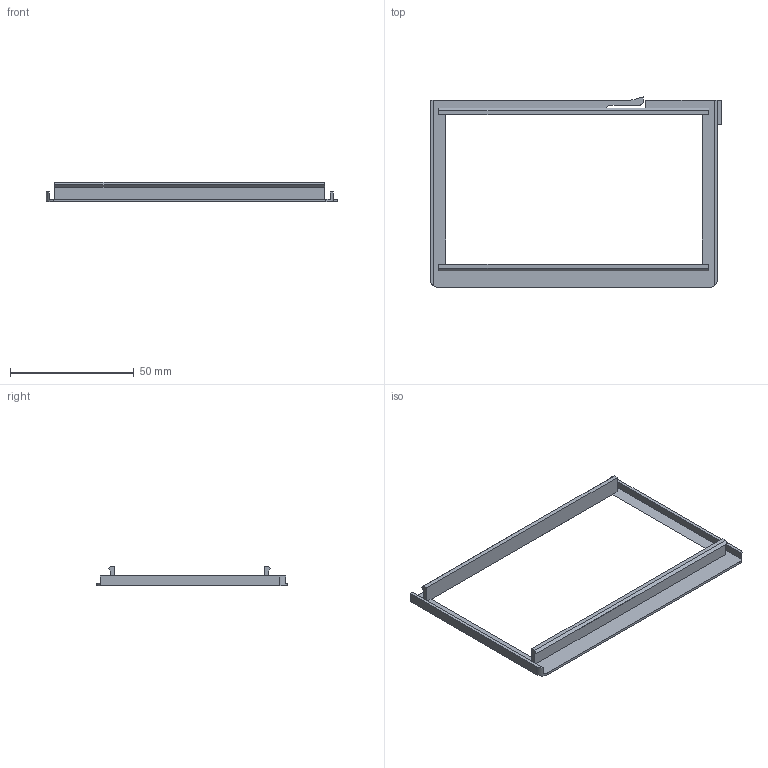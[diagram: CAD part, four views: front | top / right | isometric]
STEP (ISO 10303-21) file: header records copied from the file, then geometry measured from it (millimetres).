
FILE_DESCRIPTION(('STEP AP242 Edition 2','STEP AP242 Edition 2''CAx-IF Rec.Pracs.---Representation and Presentation of Product Manufacturing Information (PMI)---4.0---2014-10-13','STEP AP242 Edition 2''CAx-IF Rec.Pracs.---Representation and Presentation of Product Manufacturing Information (PMI)---4.0---2014-10-13''CAx-IF Rec.Pracs.---3D Tessellated Geometry---0.4---2014-09-14','STEP AP242 Edition 2''CAx-IF Rec.Pracs.---Representation and Presentation of Product Manufacturing Information (PMI)---4.0---2014-10-13''CAx-IF Rec.Pracs.---3D Tessellated Geometry---0.4---2014-09-14''2;1','STEP AP242 Edition 2''CAx-IF Rec.Pracs.---Representation and Presentation of Product Manufacturing Information (PMI)---4.0---2014-10-13''CAx-IF Rec.Pracs.---3D Tessellated Geometry---0.4---2014-09-14''2;1''CAx-IF Rec.Pracs.---User Defined Attributes---1.5---2016-08-15'),'2;1');
FILE_NAME('/vol/tmp/translate-371612670479758043/Case - Case Bottom Front.step','2026-03-18T15:31:30',(''),(''),'ST-DEVELOPER v20','ONSHAPE BY PTC INC, 1.212',' ');
FILE_SCHEMA(('AP242_MANAGED_MODEL_BASED_3D_ENGINEERING_MIM_LF { 1 0 10303 442 3 1 4 }'));
Length unit declared in the file: metre
Products named in the file (1): Case Bottom Front
Bounding box: 117.9 x 77.08 x 7.98 mm (x, y, z)
Volume: 5686.6 mm3; surface area: 9763.7 mm2
Topology: 1 solids, 1 shells, 41 faces, 113 edges, 74 vertices
Faces by surface type: plane 37, cylinder 4
Entity records: 1311 total; most frequent: CARTESIAN_POINT 229, ORIENTED_EDGE 226, DIRECTION 207, EDGE_CURVE 113, LINE 103, VECTOR 103, VERTEX_POINT 74, AXIS2_PLACEMENT_3D 52
